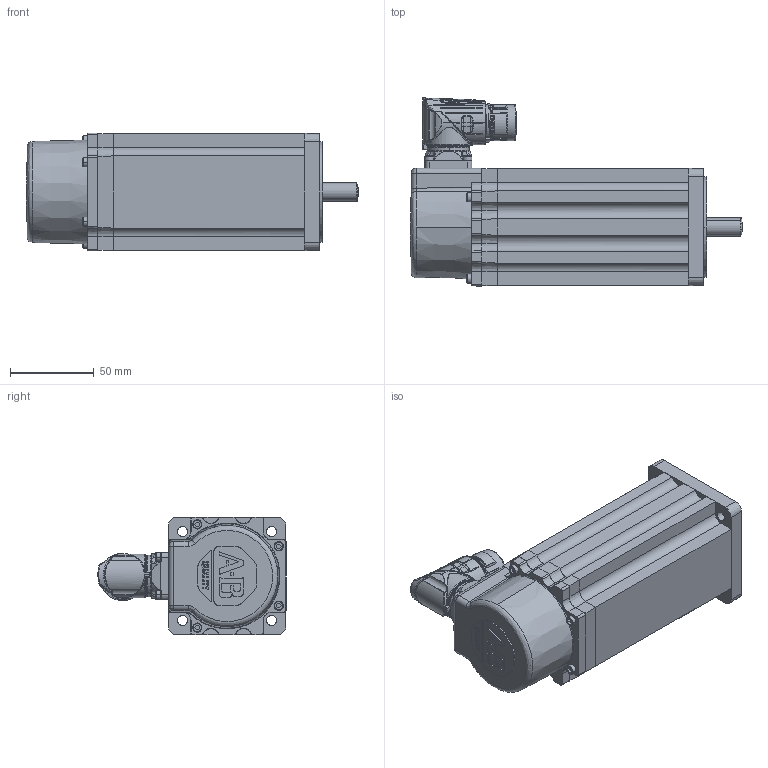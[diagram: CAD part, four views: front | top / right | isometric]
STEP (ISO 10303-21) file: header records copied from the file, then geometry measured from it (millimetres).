
FILE_DESCRIPTION (( 'STEP AP214' ), '1' );
FILE_NAME ('Rockwell Automation-$PARTNUMBER.STEP', '2014-07-25T13:47:01', ( 'Windows User' ), ( '' ), 'SwSTEP 2.0', 'SolidWorks 2014', '' );
FILE_SCHEMA (( 'AUTOMOTIVE_DESIGN' ));
Length unit declared in the file: inch
Products named in the file (29): Rockwell Automation-$PARTNUMBER_Rockwell Automation-VPF-x0753x-xJx2xx_FRONT_1; Rockwell Automation-$PARTNUMBER_Rockwell Automation-VPF-x0753x-xJx2xx_FRONT_withkey_075_shaft_Shaft_J_3_2; Rockwell Automation-$PARTNUMBER_Rockwell Automation-VPF-x0753x-xJx2xx_tab; Rockwell Automation-$PARTNUMBER_Rockwell Automation-VPF-x0753x-xJx2xx_0011-G402_ANY_2; Rockwell Automation-$PARTNUMBER_Rockwell Automation-VPF-x0753x-xJx2xx_10000169222_ANY_1; Rockwell Automation-$PARTNUMBER_Rockwell Automation-VPF-x0753x-xJx2xx_REAR_ASM_ANY_ASM; Rockwell Automation-$PARTNUMBER_Rockwell Automation-VPF-x0753x-xJx2xx_10000206536_ASM_ANY_ASM_1; Rockwell Automation-$PARTNUMBER_Rockwell Automation-VPF-x0753x-xJx2xx_PRT0002; Rockwell Automation-$PARTNUMBER_Rockwell Automation-VPF-x0753x-xJx2xx_10000206535_AF0_ANY_1; Rockwell Automation-$PARTNUMBER_Rockwell Automation-VPF-x0753x-xJx2xx_PRT0001; Rockwell Automation-$PARTNUMBER_Rockwell Automation-VPF-x0753x-xJx2xx_10000210273_AF2_ANY_1; Rockwell Automation-$PARTNUMBER_Rockwell Automation-VPF-x0753x-xJx2xx_10000220495_ASM_1_ANY_ASM; Rockwell Automation-$PARTNUMBER_Rockwell Automation-VPF-x0753x-xJx2xx_10000213398_ANY_1; Rockwell Automation-$PARTNUMBER_Rockwell Automation-VPF-x0753x-xJx2xx_10000206533_AF0_ANY; Rockwell Automation-$PARTNUMBER_Rockwell Automation-VPF-x0753x-xJx2xx_vpl-middle-075_0753; Rockwell Automation-$PARTNUMBER_Rockwell Automation-VPF-x0753x-xJx2xx_10000220495_ASM_ANY; Rockwell Automation-$PARTNUMBER_Rockwell Automation-VPF-x0753x-xJx2xx_10000205606_AF31_ANY; Rockwell Automation-$PARTNUMBER; Rockwell Automation-$PARTNUMBER_Rockwell Automation-VPF-x0753x-xJx2xx_10000218021_ANY; Rockwell Automation-$PARTNUMBER_Rockwell Automation-VPF-x0753x-xJx2xx_91290A115_ANY; Rockwell Automation-$PARTNUMBER_Rockwell Automation-VPF-x0753x-xJx2xx_ASM0003_ASM; Rockwell Automation-$PARTNUMBER_Rockwell Automation-VPF-x0753x-xJx2xx_ASM0004_ASM; Rockwell Automation-$PARTNUMBER_Rockwell Automation-VPF-x0753x-xJx2xx_PRT0008_1; Rockwell Automation-$PARTNUMBER_Rockwell Automation-VPF-x0753x-xJx2xx_PRT0005; Rockwell Automation-$PARTNUMBER_Rockwell Automation-VPF-x0753x-xJx2xx_PRT0007; Rockwell Automation-$PARTNUMBER_Rockwell Automation-VPF-x0753x-xJx2xx_PRT0008; Rockwell Automation-$PARTNUMBER_Rockwell Automation-VPF-x0753x-xJx2xx_PRT0006; Rockwell Automation-$PARTNUMBER_Rockwell Automation-VPF-x0753x-xJx2xx_FRONT_without key_1; Rockwell Automation-$PARTNUMBER_Rockwell Automation-VPF-x0753x-xJx2xx_vpf-075_753
Assembly tree (41 placements, depth 6):
  Rockwell Automation-$PARTNUMBER_Rockwell Automation-VPF-x0753x-xJx2xx_tab
  Rockwell Automation-$PARTNUMBER
    Rockwell Automation-$PARTNUMBER_Rockwell Automation-VPF-x0753x-xJx2xx_vpf-075_753
      Rockwell Automation-$PARTNUMBER_Rockwell Automation-VPF-x0753x-xJx2xx_vpl-middle-075_0753
      Rockwell Automation-$PARTNUMBER_Rockwell Automation-VPF-x0753x-xJx2xx_FRONT_without key_1
        Rockwell Automation-$PARTNUMBER_Rockwell Automation-VPF-x0753x-xJx2xx_FRONT_1
          Rockwell Automation-$PARTNUMBER_Rockwell Automation-VPF-x0753x-xJx2xx_10000213398_ANY_1
          Rockwell Automation-$PARTNUMBER_Rockwell Automation-VPF-x0753x-xJx2xx_10000206536_ASM_ANY_ASM_1
            Rockwell Automation-$PARTNUMBER_Rockwell Automation-VPF-x0753x-xJx2xx_10000210273_AF2_ANY_1
            Rockwell Automation-$PARTNUMBER_Rockwell Automation-VPF-x0753x-xJx2xx_10000206535_AF0_ANY_1
          Rockwell Automation-$PARTNUMBER_Rockwell Automation-VPF-x0753x-xJx2xx_10000169222_ANY_1  x4
      Rockwell Automation-$PARTNUMBER_Rockwell Automation-VPF-x0753x-xJx2xx_REAR_ASM_ANY_ASM
        Rockwell Automation-$PARTNUMBER_Rockwell Automation-VPF-x0753x-xJx2xx_ASM0003_ASM
          Rockwell Automation-$PARTNUMBER_Rockwell Automation-VPF-x0753x-xJx2xx_PRT0006
          Rockwell Automation-$PARTNUMBER_Rockwell Automation-VPF-x0753x-xJx2xx_ASM0004_ASM
            Rockwell Automation-$PARTNUMBER_Rockwell Automation-VPF-x0753x-xJx2xx_PRT0008
            Rockwell Automation-$PARTNUMBER_Rockwell Automation-VPF-x0753x-xJx2xx_PRT0007
            Rockwell Automation-$PARTNUMBER_Rockwell Automation-VPF-x0753x-xJx2xx_PRT0005  x4
            Rockwell Automation-$PARTNUMBER_Rockwell Automation-VPF-x0753x-xJx2xx_PRT0008_1
        Rockwell Automation-$PARTNUMBER_Rockwell Automation-VPF-x0753x-xJx2xx_91290A115_ANY  x4
        Rockwell Automation-$PARTNUMBER_Rockwell Automation-VPF-x0753x-xJx2xx_10000218021_ANY  x2
        Rockwell Automation-$PARTNUMBER_Rockwell Automation-VPF-x0753x-xJx2xx_10000220495_ASM_1_ANY_ASM
          Rockwell Automation-$PARTNUMBER_Rockwell Automation-VPF-x0753x-xJx2xx_10000205606_AF31_ANY
          Rockwell Automation-$PARTNUMBER_Rockwell Automation-VPF-x0753x-xJx2xx_10000220495_ASM_ANY  x2
          Rockwell Automation-$PARTNUMBER_Rockwell Automation-VPF-x0753x-xJx2xx_10000206533_AF0_ANY
        Rockwell Automation-$PARTNUMBER_Rockwell Automation-VPF-x0753x-xJx2xx_PRT0001  x4
        Rockwell Automation-$PARTNUMBER_Rockwell Automation-VPF-x0753x-xJx2xx_PRT0002
      Rockwell Automation-$PARTNUMBER_Rockwell Automation-VPF-x0753x-xJx2xx_0011-G402_ANY_2
      Rockwell Automation-$PARTNUMBER_Rockwell Automation-VPF-x0753x-xJx2xx_FRONT_withkey_075_shaft_Shaft_J_3_2
Bounding box: 197.9 x 112.19 x 70.31 mm (x, y, z)
Volume: 277608.8 mm3; surface area: 175144.5 mm2
Topology: 28 solids, 44 shells, 2961 faces, 8040 edges, 5182 vertices
Faces by surface type: cylinder 994, plane 912, bspline 631, cone 416, torus 8
Entity records: 141241 total; most frequent: CARTESIAN_POINT 71909, ORIENTED_EDGE 12751, DIRECTION 8150, EDGE_CURVE 6389, VERTEX_POINT 4196, AXIS2_PLACEMENT_3D 3049, B_SPLINE_CURVE_WITH_KNOTS 2966, EDGE_LOOP 2502
